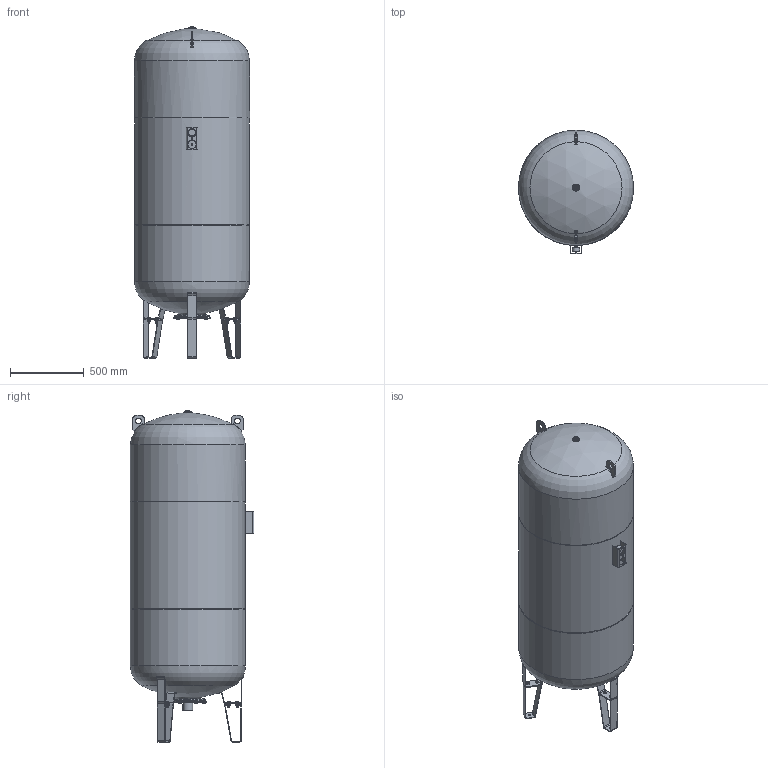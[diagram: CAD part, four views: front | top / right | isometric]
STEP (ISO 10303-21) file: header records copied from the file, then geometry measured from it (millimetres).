
FILE_DESCRIPTION(('STEP AP214'), '1');
FILE_NAME('WRV-1000', '', ('UNSPECIFIED'), ('UNSPECIFIED'), 'ASCON STEP Converter 1.3', 'ASCON Math Kernel', '');
FILE_SCHEMA(('AUTOMOTIVE_DESIGN { 1 0 10303 214 3 1 1}'));
Length unit declared in the file: millimetre
Bounding box: 781.25 x 839.48 x 2250.82 mm (x, y, z)
Surface area: 5681537.6 mm2 (no closed solid volume)
Topology: 0 solids, 5 shells, 782 faces, 2152 edges, 1414 vertices
Faces by surface type: plane 351, cylinder 199, cone 144, torus 42, sphere 24, bspline 22
Full cylindrical faces by diameter (mm): 3 x1, 4 x1, 4.3 x1, 5.5 x1, 6 x1, 6.5 x1, 8 x3, 8.5 x1, 12 x19, 13 x6, 13.585 x1, 14 x3, 18.6 x1, 24 x7, 26.4 x1, 40 x2, 47 x1, 48 x1, 50 x1, 55 x2, 56.235 x1, 56.656 x1, 66.5 x1, 179 x1, 200 x1, 240 x1, 250 x1, 780 x2
Entity records: 61558 total; most frequent: CARTESIAN_POINT 36043, ORIENTED_EDGE 4000, DIRECTION 3875, EDGE_CURVE 2016, AXIS2_PLACEMENT_3D 1580, VERTEX_POINT 1408, EDGE_LOOP 1012, FACE_BOUND 978
